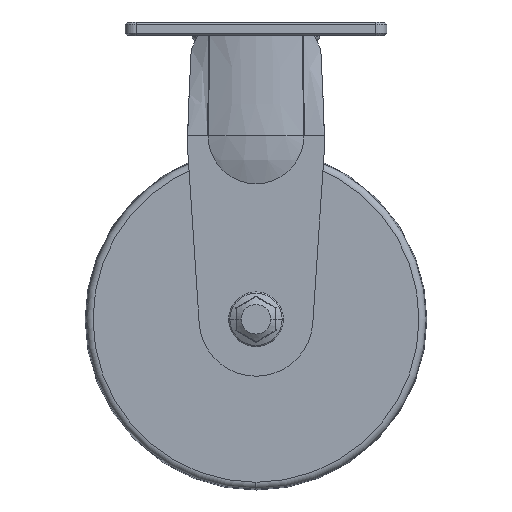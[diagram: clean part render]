
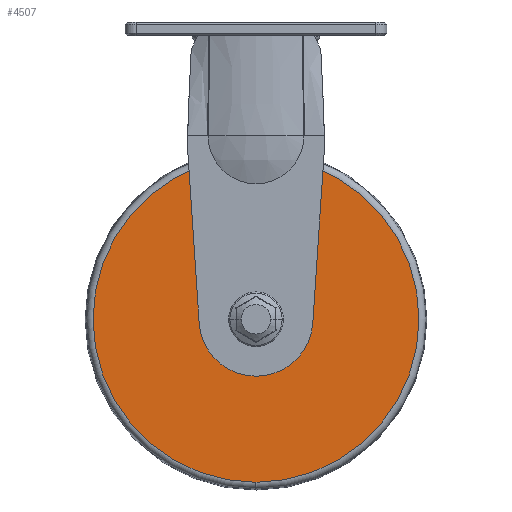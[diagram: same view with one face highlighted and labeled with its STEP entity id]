
A CAD part, front view. The second image highlights one B-rep face of the part: STEP entity #4507.
In plain terms, the highlighted planar face has unit normal (0, -1, 0).
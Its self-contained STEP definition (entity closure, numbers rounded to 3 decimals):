
#299=CARTESIAN_POINT('',(-93.865,-157.785,-72.944));
#300=VERTEX_POINT('',#299);
#309=CARTESIAN_POINT('',(-93.865,-157.785,-216.056));
#310=VERTEX_POINT('',#309);
#318=CARTESIAN_POINT('',(-93.865,-157.785,-144.5));
#319=DIRECTION('',(0.0,1.0,0.0));
#320=DIRECTION('',(0.0,0.0,1.0));
#321=AXIS2_PLACEMENT_3D('',#318,#319,#320);
#322=CIRCLE('',#321,71.556);
#323=EDGE_CURVE('',#310,#300,#322,.T.);
#409=CARTESIAN_POINT('',(-93.865,-157.785,-134.5));
#410=VERTEX_POINT('',#409);
#419=CARTESIAN_POINT('',(-93.865,-157.785,-154.5));
#420=VERTEX_POINT('',#419);
#421=CARTESIAN_POINT('',(-93.865,-157.785,-144.5));
#422=DIRECTION('',(0.0,1.0,0.0));
#423=DIRECTION('',(0.0,0.0,1.0));
#424=AXIS2_PLACEMENT_3D('',#421,#422,#423);
#425=CIRCLE('',#424,10.);
#426=EDGE_CURVE('',#420,#410,#425,.T.);
#4422=CARTESIAN_POINT('',(-93.865,-157.785,-144.5));
#4423=DIRECTION('',(0.0,1.0,0.0));
#4424=DIRECTION('',(0.0,0.0,1.0));
#4425=AXIS2_PLACEMENT_3D('',#4422,#4423,#4424);
#4426=CIRCLE('',#4425,10.);
#4427=EDGE_CURVE('',#410,#420,#4426,.T.);
#4488=CARTESIAN_POINT('',(-93.865,-157.785,-103.722));
#4489=DIRECTION('',(0.0,-1.0,0.0));
#4490=DIRECTION('',(0.0,0.0,-1.0));
#4491=AXIS2_PLACEMENT_3D('',#4488,#4489,#4490);
#4492=PLANE('',#4491);
#4493=CARTESIAN_POINT('',(-93.865,-157.785,-144.5));
#4494=DIRECTION('',(0.0,1.0,0.0));
#4495=DIRECTION('',(0.0,0.0,1.0));
#4496=AXIS2_PLACEMENT_3D('',#4493,#4494,#4495);
#4497=CIRCLE('',#4496,71.556);
#4498=EDGE_CURVE('',#300,#310,#4497,.T.);
#4499=ORIENTED_EDGE('',*,*,#4498,.F.);
#4500=ORIENTED_EDGE('',*,*,#323,.F.);
#4501=EDGE_LOOP('',(#4499,#4500));
#4502=FACE_OUTER_BOUND('',#4501,.T.);
#4503=ORIENTED_EDGE('',*,*,#4427,.T.);
#4504=ORIENTED_EDGE('',*,*,#426,.T.);
#4505=EDGE_LOOP('',(#4503,#4504));
#4506=FACE_BOUND('',#4505,.T.);
#4507=ADVANCED_FACE('',(#4502,#4506),#4492,.T.);
